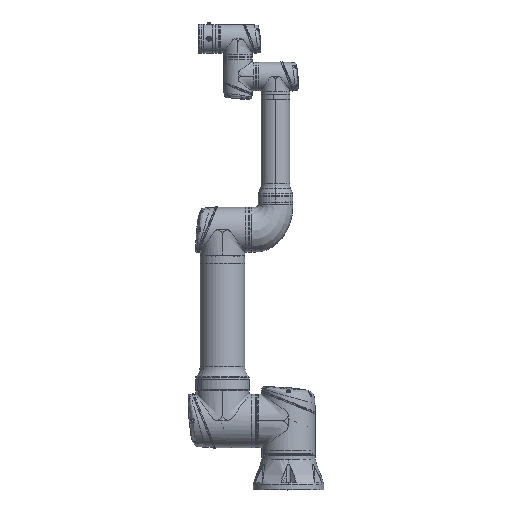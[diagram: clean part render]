
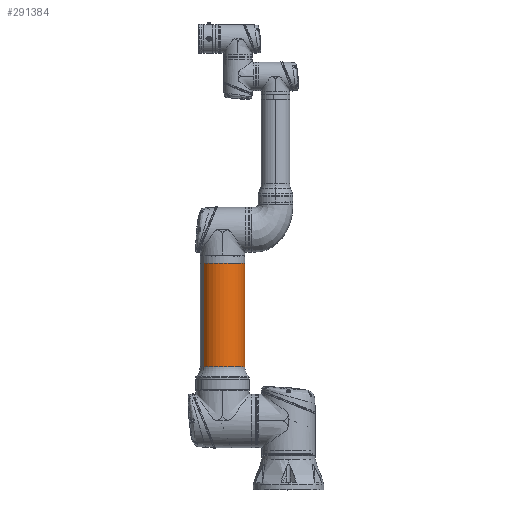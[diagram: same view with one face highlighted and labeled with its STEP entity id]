
A CAD part, top view. The second image highlights one B-rep face of the part: STEP entity #291384.
In plain terms, the highlighted cylindrical face has radius 76 mm (diameter 152 mm), a partial arc.
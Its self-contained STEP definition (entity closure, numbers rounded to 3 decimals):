
#1753 = VERTEX_POINT ( 'NONE', #287102 ) ;
#10696 = CARTESIAN_POINT ( 'NONE',  ( 43.158, -197., -62.557 ) ) ;
#16910 = VERTEX_POINT ( 'NONE', #58201 ) ;
#54004 = CIRCLE ( 'NONE', #95269, 76. ) ;
#58201 = CARTESIAN_POINT ( 'NONE',  ( 43.158, -284.707, -62.557 ) ) ;
#58875 = FACE_OUTER_BOUND ( 'NONE', #61655, .T. ) ;
#61655 = EDGE_LOOP ( 'NONE', ( #68645, #96988, #290739, #72685 ) ) ;
#68645 = ORIENTED_EDGE ( 'NONE', *, *, #69067, .F. ) ;
#69067 = EDGE_CURVE ( 'NONE', #99467, #16910, #258620, .T. ) ;
#72685 = ORIENTED_EDGE ( 'NONE', *, *, #243255, .T. ) ;
#81569 = CARTESIAN_POINT ( 'NONE',  ( -43.158, -197., 62.557 ) ) ;
#82881 = DIRECTION ( 'NONE',  ( 0., 1., 0. ) ) ;
#95269 = AXIS2_PLACEMENT_3D ( 'NONE', #204248, #255305, #181000 ) ;
#96988 = ORIENTED_EDGE ( 'NONE', *, *, #182000, .T. ) ;
#99467 = VERTEX_POINT ( 'NONE', #256428 ) ;
#114253 = DIRECTION ( 'NONE',  ( -0.568, 0., 0.823 ) ) ;
#123556 = VECTOR ( 'NONE', #82881, 1000. ) ;
#164255 = CARTESIAN_POINT ( 'NONE',  ( 0., -197., 0. ) ) ;
#179069 = LINE ( 'NONE', #81569, #246525 ) ;
#181000 = DIRECTION ( 'NONE',  ( -0.568, 0., 0.823 ) ) ;
#182000 = EDGE_CURVE ( 'NONE', #99467, #1753, #302050, .T. ) ;
#183866 = AXIS2_PLACEMENT_3D ( 'NONE', #164255, #215178, #114253 ) ;
#184821 = DIRECTION ( 'NONE',  ( -0.568, 0., 0.823 ) ) ;
#187993 = CARTESIAN_POINT ( 'NONE',  ( 0., -635.5, 0. ) ) ;
#188412 = AXIS2_PLACEMENT_3D ( 'NONE', #187993, #311398, #184821 ) ;
#204248 = CARTESIAN_POINT ( 'NONE',  ( 0., -284.707, 0. ) ) ;
#215178 = DIRECTION ( 'NONE',  ( 0., 1., 0. ) ) ;
#243255 = EDGE_CURVE ( 'NONE', #294930, #16910, #54004, .T. ) ;
#246525 = VECTOR ( 'NONE', #310105, 1000. ) ;
#255305 = DIRECTION ( 'NONE',  ( 0., -1., 0. ) ) ;
#256428 = CARTESIAN_POINT ( 'NONE',  ( 43.158, -635.5, -62.557 ) ) ;
#258620 = LINE ( 'NONE', #10696, #123556 ) ;
#273340 = CYLINDRICAL_SURFACE ( 'NONE', #183866, 76. ) ;
#287035 = EDGE_CURVE ( 'NONE', #1753, #294930, #179069, .T. ) ;
#287102 = CARTESIAN_POINT ( 'NONE',  ( -43.158, -635.5, 62.557 ) ) ;
#290739 = ORIENTED_EDGE ( 'NONE', *, *, #287035, .T. ) ;
#291384 = ADVANCED_FACE ( 'NONE', ( #58875 ), #273340, .T. ) ;
#294930 = VERTEX_POINT ( 'NONE', #296285 ) ;
#296285 = CARTESIAN_POINT ( 'NONE',  ( -43.158, -284.707, 62.557 ) ) ;
#302050 = CIRCLE ( 'NONE', #188412, 76. ) ;
#310105 = DIRECTION ( 'NONE',  ( 0., 1., 0. ) ) ;
#311398 = DIRECTION ( 'NONE',  ( 0., 1., 0. ) ) ;
